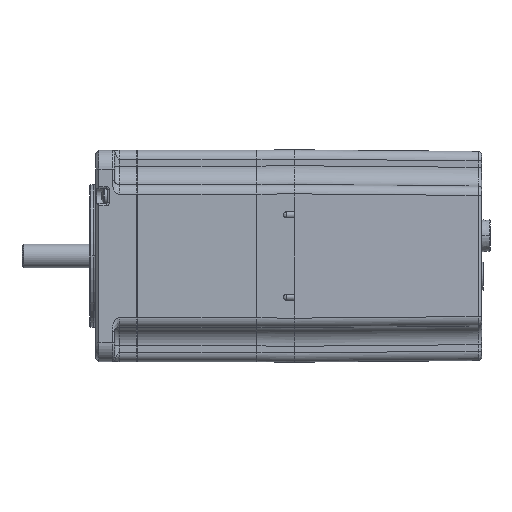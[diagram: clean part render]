
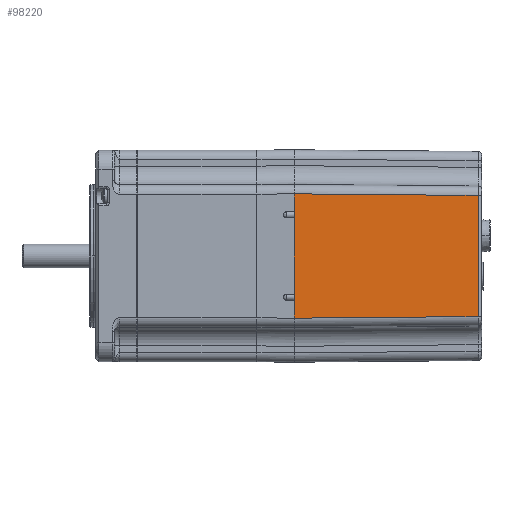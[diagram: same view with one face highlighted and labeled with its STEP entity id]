
A CAD part, front view. The second image highlights one B-rep face of the part: STEP entity #98220.
In plain terms, the highlighted planar face has unit normal (0.009, -1, 0) as drawn and (1, 0, -0.009) by its records, which use the part's own axes.
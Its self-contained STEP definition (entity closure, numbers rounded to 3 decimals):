
#44298=DIRECTION('',(0.,1.,0.));
#44299=VECTOR('',#44298,4.787);
#44300=CARTESIAN_POINT('',(28.337,-16.587,
-53.));
#44301=LINE('',#44300,#44299);
#44305=DIRECTION('',(0.,1.,0.));
#44306=VECTOR('',#44305,1.6);
#44307=CARTESIAN_POINT('',(28.337,-11.8,-53.));
#44308=LINE('',#44307,#44306);
#44312=DIRECTION('',(0.,1.,0.));
#44313=VECTOR('',#44312,20.4);
#44314=CARTESIAN_POINT('',(28.337,-10.2,-53.));
#44315=LINE('',#44314,#44313);
#44319=DIRECTION('',(0.,1.,0.));
#44320=VECTOR('',#44319,1.6);
#44321=CARTESIAN_POINT('',(28.337,10.2,-53.));
#44322=LINE('',#44321,#44320);
#44326=DIRECTION('',(0.,1.,0.));
#44327=VECTOR('',#44326,4.787);
#44328=CARTESIAN_POINT('',(28.337,11.8,-53.));
#44329=LINE('',#44328,#44327);
#44333=DIRECTION('',(-0.009,-0.009,-1.));
#44334=VECTOR('',#44333,49.012);
#44335=CARTESIAN_POINT('',(28.337,16.587,
-53.));
#44336=LINE('',#44335,#44334);
#44340=DIRECTION('',(0.009,-0.009,1.));
#44341=VECTOR('',#44340,49.012);
#44342=CARTESIAN_POINT('',(27.91,-16.16,
-102.009));
#44343=LINE('',#44342,#44341);
#44424=CARTESIAN_POINT('',(27.91,-16.16,
-102.009));
#44451=DIRECTION('',(0.,1.,0.));
#44452=VECTOR('',#44451,32.319);
#44453=CARTESIAN_POINT('',(27.91,-16.16,
-102.009));
#44454=LINE('',#44453,#44452);
#44485=CARTESIAN_POINT('',(27.91,16.16,
-102.009));
#52054=VERTEX_POINT('',#44485);
#52055=VERTEX_POINT('',#44424);
#55849=CARTESIAN_POINT('',(28.337,-16.587,
-53.));
#55850=CARTESIAN_POINT('',(28.337,-11.8,-53.));
#55851=VERTEX_POINT('',#55849);
#55852=VERTEX_POINT('',#55850);
#55853=CARTESIAN_POINT('',(28.337,-10.2,-53.));
#55854=CARTESIAN_POINT('',(28.337,10.2,-53.));
#55855=VERTEX_POINT('',#55853);
#55856=VERTEX_POINT('',#55854);
#55857=CARTESIAN_POINT('',(28.337,11.8,-53.));
#55858=CARTESIAN_POINT('',(28.337,16.587,
-53.));
#55859=VERTEX_POINT('',#55857);
#55860=VERTEX_POINT('',#55858);
#98199=CARTESIAN_POINT('',(28.123,0.,-77.504));
#98200=DIRECTION('',(1.,0.,-0.009));
#98201=DIRECTION('',(-0.009,0.,-1.));
#98202=AXIS2_PLACEMENT_3D('',#98199,#98200,#98201);
#98203=PLANE('',#98202);
#98205=ORIENTED_EDGE('',*,*,#98204,.T.);
#98206=ORIENTED_EDGE('',*,*,#98127,.T.);
#98208=ORIENTED_EDGE('',*,*,#98207,.T.);
#98209=ORIENTED_EDGE('',*,*,#98153,.T.);
#98211=ORIENTED_EDGE('',*,*,#98210,.T.);
#98213=ORIENTED_EDGE('',*,*,#98212,.T.);
#98215=ORIENTED_EDGE('',*,*,#98214,.F.);
#98217=ORIENTED_EDGE('',*,*,#98216,.T.);
#98218=EDGE_LOOP('',(#98205,#98206,#98208,#98209,#98211,#98213,#98215,#98217));
#98219=FACE_OUTER_BOUND('',#98218,.F.);
#98127=EDGE_CURVE('',#55852,#55855,#44308,.T.);
#98153=EDGE_CURVE('',#55856,#55859,#44322,.T.);
#98204=EDGE_CURVE('',#55851,#55852,#44301,.T.);
#98207=EDGE_CURVE('',#55855,#55856,#44315,.T.);
#98210=EDGE_CURVE('',#55859,#55860,#44329,.T.);
#98212=EDGE_CURVE('',#55860,#52054,#44336,.T.);
#98214=EDGE_CURVE('',#52055,#52054,#44454,.T.);
#98216=EDGE_CURVE('',#52055,#55851,#44343,.T.);
#98220=ADVANCED_FACE('',(#98219),#98203,.T.);
